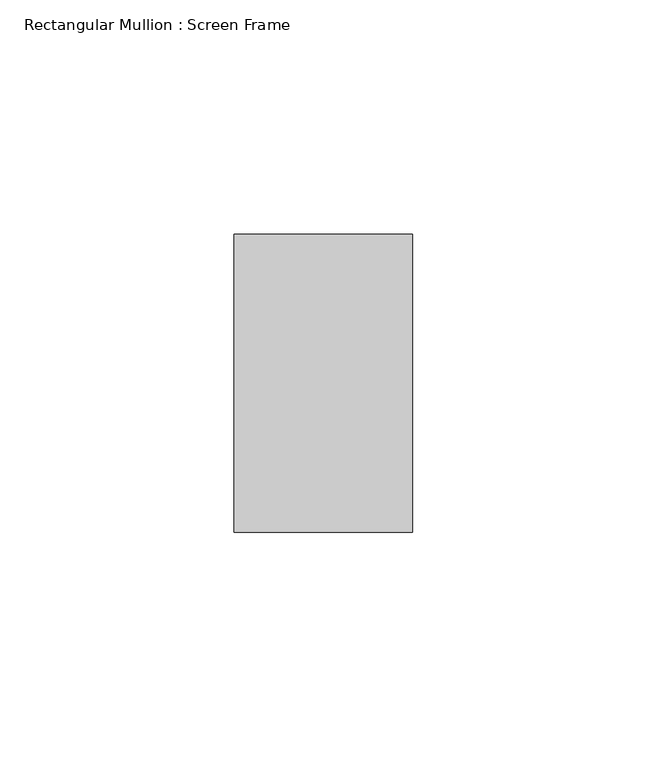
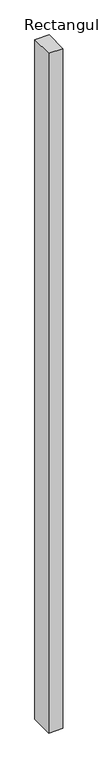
"""IFC4 building model written with IfcOpenShell, lengths in millimetres: member geometry, Rectangular Mullion : Screen Frame."""

from ifc_helpers import new_model, si_unit, frame, origin, place, context, project, spatial, polyline, outline, extrude, source, transform, mapped, element, save


def rectangular_mullion_screen_frame_8fefd284(model_context):
    return source(origin(), model_context, "Body", "SweptSolid", [
        extrude(outline(polyline([(0.0, 31.75), (0.0, -31.75), (-38.1, -31.75), (-38.1, 31.75), (0.0, 31.75)])), frame((0.0, 0.0, -1924.6909457), z_axis=(0.0, 0.0, 1.0), x_axis=(1.0, 0.0, 0.0)), (0.0, 0.0, 1.0), 1924.6909457),
    ])


if __name__ == "__main__":
    model = new_model("IFC4")
    model_context = context("Model", 3, world=origin())
    ifc_project = project(units=[si_unit("LENGTHUNIT", "METRE", prefix="MILLI")], contexts=[model_context])
    site = spatial("IfcSite", under=ifc_project)
    building = spatial("IfcBuilding", under=site)
    placement = place(None, origin())
    rectangular_mullion_screen_frame_shape = rectangular_mullion_screen_frame_8fefd284(model_context)
    element("IfcMember", 1, ObjectType="Rectangular Mullion : Screen Frame", at=placement, inside=building, context=model_context, shape_type="MappedRepresentation", body=[
        mapped(rectangular_mullion_screen_frame_shape, transform((0.0, 0.0, 0.0), x_axis=(1.0, 0.0, 0.0), y_axis=(0.0, 1.0, 0.0), z_axis=(0.0, 0.0, 1.0))),
    ])
    save(model, "model.ifc")
